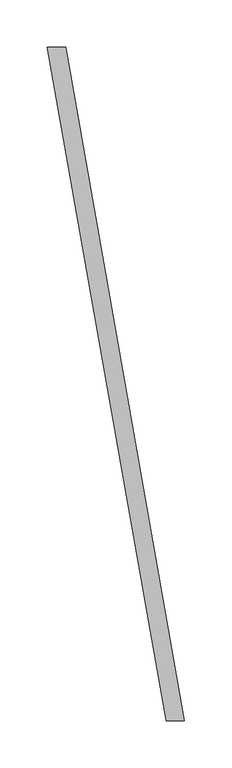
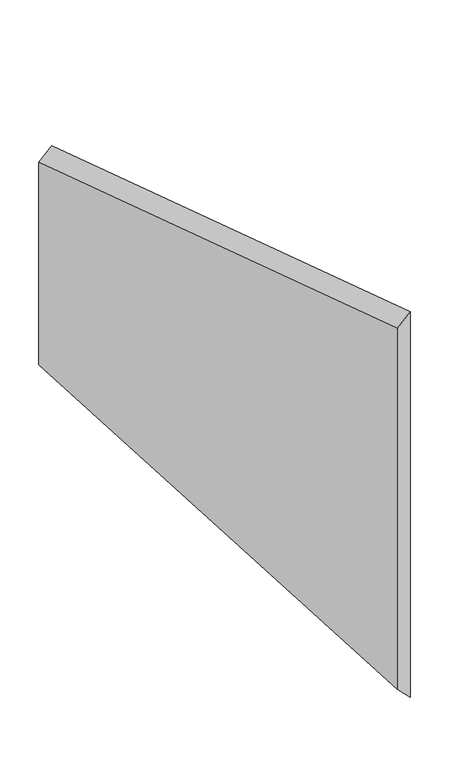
"""IFC4 building model written with IfcOpenShell, lengths in millimetres: proxy geometry, GRADIENT^TABLE 7_PYRAMID BASES-CTR BASE BACK."""

import ifcopenshell
import ifcopenshell.guid

model = None  # the IFC model being written
_history = None  # IfcOwnerHistory: only IFC2X3 demands one
_inside = {}  # id of a spatial element -> (the spatial element, [elements in it])
_under = {}  # id of a project, library or spatial element -> (it, [spatial elements below it])
_declared = {}  # id of a project -> (the project, [libraries it declares])
_typed = {}  # id of a type object -> (the type object, [elements of that type])
_made_of = {}  # id of a material, layer set ... -> (it, [elements and type objects made of it])


def new_model(schema):
    """Start an empty IFC model of exactly this schema.

    Asked for "IFC4X3", IfcOpenShell would pick the latest addendum, in which some entities
    have other attributes; the version numbers below select the first issue.
    IFC2X3 requires an IfcOwnerHistory on every rooted entity: one is made here for all.
    """
    global model, _history
    if schema == "IFC4X3":
        model = ifcopenshell.file(schema_version=(4, 3, 0, 0))
    else:
        model = ifcopenshell.file(schema=schema)
    _inside.clear()
    _under.clear()
    _declared.clear()
    _typed.clear()
    _made_of.clear()
    _history = None
    if model.schema == "IFC2X3":
        org = make("IfcOrganization", Name="unknown")
        user = make(
            "IfcPersonAndOrganization",
            ThePerson=make("IfcPerson", FamilyName="unknown"),
            TheOrganization=org,
        )
        app = make(
            "IfcApplication",
            ApplicationDeveloper=org,
            Version="unknown",
            ApplicationFullName="unknown",
            ApplicationIdentifier="unknown",
        )
        _history = make(
            "IfcOwnerHistory",
            OwningUser=user,
            OwningApplication=app,
            ChangeAction="ADDED",
            CreationDate=0,
        )
    return model


def make(cls, **values):
    """One entity of the class cls with the attributes given. An attribute that is None is left unset."""
    return model.create_entity(
        cls, **{name: value for name, value in values.items() if value is not None}
    )


def rooted(cls, **values):
    """An entity with a GlobalId (a new one), such as an element, a storey or a relation."""
    return make(cls, GlobalId=ifcopenshell.guid.new(), OwnerHistory=_history, **values)


def si_unit(unit_type, name, prefix=None):
    """IfcSIUnit, for example si_unit("LENGTHUNIT", "METRE", prefix="MILLI")."""
    return make("IfcSIUnit", UnitType=unit_type, Prefix=prefix, Name=name)


def assignment(units):
    """IfcUnitAssignment: the units of a project."""
    return None if units is None else make("IfcUnitAssignment", Units=units)


def point(xyz):
    """IfcCartesianPoint."""
    return None if xyz is None else make("IfcCartesianPoint", Coordinates=xyz)


def direction(xyz):
    """IfcDirection."""
    return None if xyz is None else make("IfcDirection", DirectionRatios=xyz)


def frame(location, z_axis=None, x_axis=None):
    """IfcAxis2Placement3D, a coordinate frame: its origin and axes. An axis left out is left unset."""
    return make(
        "IfcAxis2Placement3D",
        Location=point(location),
        Axis=direction(z_axis),
        RefDirection=direction(x_axis),
    )


def origin():
    """The frame at (0, 0, 0) with its axes left unset."""
    return frame((0.0, 0.0, 0.0))


def place(relative_to, where):
    """IfcLocalPlacement: puts the frame where relative to a parent placement (None: the world)."""
    return make(
        "IfcLocalPlacement", PlacementRelTo=relative_to, RelativePlacement=where
    )


def context(
    kind, dimensions, precision=None, world=None, true_north=None, identifier=None
):
    """IfcGeometricRepresentationContext, for example the 3D "Model" context."""
    return make(
        "IfcGeometricRepresentationContext",
        ContextIdentifier=identifier,
        ContextType=kind,
        CoordinateSpaceDimension=dimensions,
        Precision=precision,
        WorldCoordinateSystem=world,
        TrueNorth=true_north,
    )


def project(units=None, contexts=None):
    """IfcProject with its units and contexts."""
    return rooted(
        "IfcProject",
        Name="project",
        RepresentationContexts=contexts,
        UnitsInContext=assignment(units),
    )


def spatial(cls, under=None, at=None, **own):
    """A site, building, storey or space (cls), placed at a placement, below another one or the project."""
    s = rooted(cls, ObjectPlacement=at, **own)
    if under is not None:
        _under.setdefault(under.id(), (under, []))[1].append(s)
    return s


def faces_of(points, faces, orient=None, outer=None):
    """IfcFace entities. A face is a list of loops; a loop is a list of indices into points, from 0.

    orient and outer hold one flag for each loop. By default every Orientation is true, the
    first loop of a face is its IfcFaceOuterBound and the others are IfcFaceBound.
    """
    made = []
    for i, loops in enumerate(faces):
        bounds = []
        for j, loop in enumerate(loops):
            is_outer = j == 0 if outer is None else outer[i][j]
            bounds.append(
                make(
                    "IfcFaceOuterBound" if is_outer else "IfcFaceBound",
                    Bound=make("IfcPolyLoop", Polygon=[points[k] for k in loop]),
                    Orientation=True if orient is None else orient[i][j],
                )
            )
        made.append(make("IfcFace", Bounds=bounds))
    return made


def faceted_brep(points, faces, orient=None, outer=None, voids=None):
    """IfcFacetedBrep: a solid bounded by flat faces; with voids (closed shells), ...WithVoids."""
    shared = [point(p) for p in points]
    hull = make("IfcClosedShell", CfsFaces=faces_of(shared, faces, orient, outer))
    if voids is None:
        return make("IfcFacetedBrep", Outer=hull)
    return make(
        "IfcFacetedBrepWithVoids",
        Outer=hull,
        Voids=[
            make(cls, CfsFaces=faces_of(shared, fs, o, b)) for cls, fs, o, b in voids
        ],
    )


def shape(context_of_items, identifier, shape_type, items):
    """IfcShapeRepresentation: the items that make up one representation, for example the "Body"."""
    return make(
        "IfcShapeRepresentation",
        ContextOfItems=context_of_items,
        RepresentationIdentifier=identifier,
        RepresentationType=shape_type,
        Items=items,
    )


def source(mapping_origin, context_of_items, identifier, shape_type, items):
    """IfcRepresentationMap: a shape defined once, which mapped items show again and again."""
    return make(
        "IfcRepresentationMap",
        MappingOrigin=mapping_origin,
        MappedRepresentation=shape(context_of_items, identifier, shape_type, items),
    )


def transform(
    local_origin,
    x_axis=None,
    y_axis=None,
    z_axis=None,
    scale=None,
    scale2=None,
    scale3=None,
    uniform=True,
):
    """IfcCartesianTransformationOperator3D, or its non-uniform kind. x_axis, y_axis, z_axis: its Axis1, 2, 3."""
    if uniform:
        return make(
            "IfcCartesianTransformationOperator3D",
            Axis1=direction(x_axis),
            Axis2=direction(y_axis),
            LocalOrigin=point(local_origin),
            Scale=scale,
            Axis3=direction(z_axis),
        )
    return make(
        "IfcCartesianTransformationOperator3DnonUniform",
        Axis1=direction(x_axis),
        Axis2=direction(y_axis),
        LocalOrigin=point(local_origin),
        Scale=scale,
        Axis3=direction(z_axis),
        Scale2=scale2,
        Scale3=scale3,
    )


def mapped(mapping_source, mapping_target):
    """IfcMappedItem: shows the shape of a source again, moved by a transform."""
    return make(
        "IfcMappedItem", MappingSource=mapping_source, MappingTarget=mapping_target
    )


def made_of(thing, what):
    """Note that an element or type object is made of a material, layer set ...; save() writes the relation."""
    if what is not None:
        _made_of.setdefault(what.id(), (what, []))[1].append(thing)
    return thing


def element(
    cls,
    number,
    at=None,
    inside=None,
    cuts=None,
    type_object=None,
    material=None,
    context=None,
    identifier="Body",
    shape_type=None,
    held_by="IfcProductDefinitionShape",
    body=None,
    shapes=None,
    **own,
):
    """One element of the class cls, such as IfcWall. Its Tag is "e" and its number.

    at: its placement. inside: the storey or other place that contains it. cuts: it is an
    opening in that element (IfcRelVoidsElement). A single representation is given by context,
    identifier, shape_type and body (its items); several are given by shapes. held_by: the class
    of the entity that holds the representations. save() writes the other relations.
    """
    e = rooted(cls, Tag="e%d" % number, ObjectPlacement=at, **own)
    if body is not None:
        shapes = [shape(context, identifier, shape_type, body)]
    if shapes is not None:
        e.Representation = make(held_by, Representations=shapes)
    if inside is not None:
        _inside.setdefault(inside.id(), (inside, []))[1].append(e)
    if cuts is not None:
        rooted(
            "IfcRelVoidsElement", RelatingBuildingElement=cuts, RelatedOpeningElement=e
        )
    if type_object is not None:
        _typed.setdefault(type_object.id(), (type_object, []))[1].append(e)
    return made_of(e, material)


def aggregate(whole, parts):
    """IfcRelAggregates: a whole, such as a stair, and the parts it consists of."""
    return rooted("IfcRelAggregates", RelatingObject=whole, RelatedObjects=parts)


def save(model, path):
    """Write the relations noted so far, then the file.

    IfcRelAggregates (storeys below a building ...), IfcRelContainedInSpatialStructure (elements
    in a storey), IfcRelDefinesByType, IfcRelAssociatesMaterial and IfcRelDeclares: one each for
    every whole, place, type object, material and project.
    """
    for whole, parts in _under.values():
        aggregate(whole, parts)
    for where, things in _inside.values():
        rooted(
            "IfcRelContainedInSpatialStructure",
            RelatedElements=things,
            RelatingStructure=where,
        )
    for kind, things in _typed.values():
        rooted("IfcRelDefinesByType", RelatedObjects=things, RelatingType=kind)
    for what, things in _made_of.values():
        rooted("IfcRelAssociatesMaterial", RelatedObjects=things, RelatingMaterial=what)
    for by, libraries in _declared.values():
        rooted("IfcRelDeclares", RelatingContext=by, RelatedDefinitions=libraries)
    model.write(path)


def generic_models_d9a1c585(model_context):
    return source(origin(), model_context, "Body", "Brep", [
        faceted_brep([(2217.4523744, 0.0, -601.9476256), (2217.4523744, 0.0, -922.0523744), (2342.856123, -711.2, -1047.456123), (2342.856123, -711.2, -476.543877), (2236.7962513, 0.0, -582.6037487), (2236.7962513, 0.0, -941.3962513), (2362.2, -711.2, -1066.8), (2362.2, -711.2, -457.2)], [[[0, 1, 2, 3]], [[1, 0, 4, 5]], [[5, 6, 2, 1]], [[5, 4, 7, 6]], [[2, 6, 7, 3]], [[7, 4, 0, 3]]]),
    ])


if __name__ == "__main__":
    model = new_model("IFC4")
    model_context = context("Model", 3, world=origin())
    ifc_project = project(units=[si_unit("LENGTHUNIT", "METRE", prefix="MILLI")], contexts=[model_context])
    site = spatial("IfcSite", under=ifc_project)
    building = spatial("IfcBuilding", under=site)
    placement = place(None, origin())
    generic_models_shape = generic_models_d9a1c585(model_context)
    element("IfcBuildingElementProxy", 1, Name="GRADIENT^TABLE 7_PYRAMID BASES-CTR BASE BACK", ObjectType="GRADIENT^TABLE 7_PYRAMID BASES-CTR BASE BACK", at=placement, inside=building, context=model_context, shape_type="MappedRepresentation", body=[
        mapped(generic_models_shape, transform((0.0, 0.0, 0.0), x_axis=(1.0, 0.0, 0.0), y_axis=(0.0, 1.0, 0.0), z_axis=(0.0, 0.0, 1.0))),
    ])
    save(model, "model.ifc")
